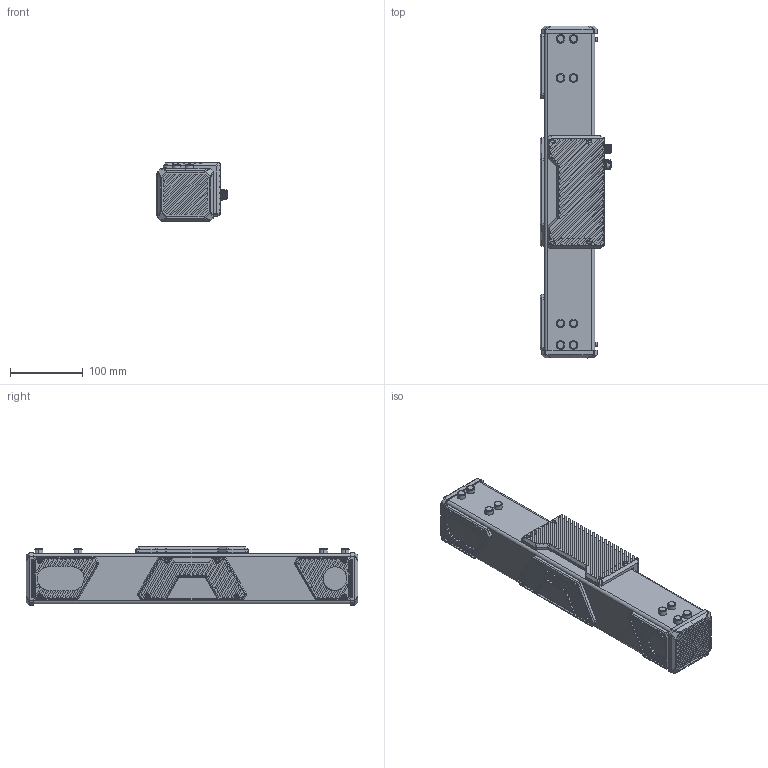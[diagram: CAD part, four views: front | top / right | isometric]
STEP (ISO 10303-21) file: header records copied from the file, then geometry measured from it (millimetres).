
FILE_DESCRIPTION((''),'2;1');
FILE_NAME('00-600P-V2-CASE-202406201418','2024-06-20T14:19:55',('guodanfeng'),(''),'CREO PARAMETRIC BY PTC INC, 2020044','CREO PARAMETRIC BY PTC INC, 2020044','');
FILE_SCHEMA(('AUTOMOTIVE_DESIGN { 1 0 10303 214 1 1 1 1 }'));
Products named in the file (1): 00-600P-V2-CASE-202406201418
Bounding box: 98.5 x 456.07 x 79.8 mm (x, y, z)
Surface area: 246194.3 mm2 (no closed solid volume)
Topology: 0 solids, 66 shells, 2123 faces, 7296 edges, 5183 vertices
Faces by surface type: plane 1105, cylinder 741, cone 145, bspline 50, torus 42, extrusion 40
Entity records: 117753 total; most frequent: CARTESIAN_POINT 29266, DIRECTION 13279, ORIENTED_EDGE 12929, PRESENTATION_STYLE_ASSIGNMENT 7660, STYLED_ITEM 7295, CURVE_STYLE 7256, EDGE_CURVE 7256, VERTEX_POINT 5183
